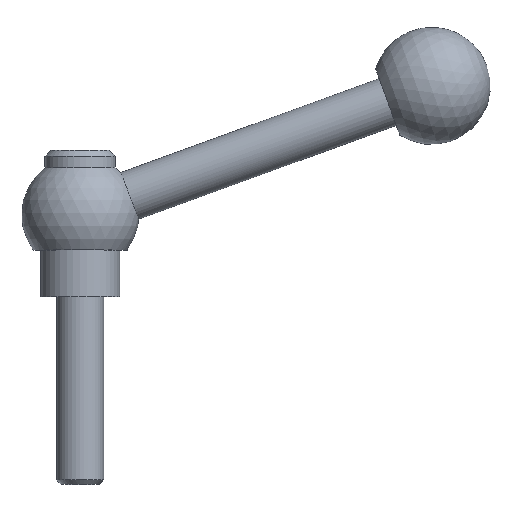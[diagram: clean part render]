
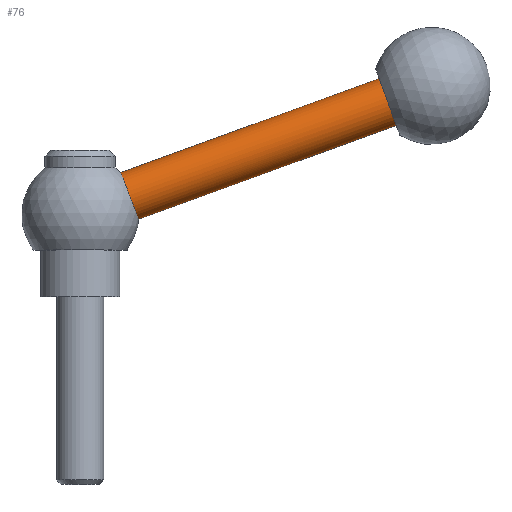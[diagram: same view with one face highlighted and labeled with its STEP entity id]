
A CAD part, top view. The second image highlights one B-rep face of the part: STEP entity #76.
In plain terms, the highlighted cylindrical face has radius 4.25 mm (diameter 8.5 mm), a full revolution.
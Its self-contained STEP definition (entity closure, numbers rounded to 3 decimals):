
#76 = ADVANCED_FACE( '', ( #92, #93 ), #94, .T. );
#92 = FACE_OUTER_BOUND( '', #130, .T. );
#93 = FACE_OUTER_BOUND( '', #131, .T. );
#94 = CYLINDRICAL_SURFACE( '', #132, 4.25 );
#130 = EDGE_LOOP( '', ( #170 ) );
#131 = EDGE_LOOP( '', ( #171 ) );
#132 = AXIS2_PLACEMENT_3D( '', #172, #173, #174 );
#170 = ORIENTED_EDGE( '', *, *, #230, .F. );
#171 = ORIENTED_EDGE( '', *, *, #231, .F. );
#172 = CARTESIAN_POINT( '', ( 69.397, 39.42, 0. ) );
#173 = DIRECTION( '', ( -0.94, -0.342, 0. ) );
#174 = DIRECTION( '', ( -0.342, 0.94, 0. ) );
#230 = EDGE_CURVE( '', #244, #244, #245, .T. );
#231 = EDGE_CURVE( '', #246, #246, #247, .T. );
#244 = VERTEX_POINT( '', #268 );
#245 = CIRCLE( '', #269, 4.25 );
#246 = VERTEX_POINT( '', #270 );
#247 = B_SPLINE_CURVE_WITH_KNOTS( '', 3, ( #271, #272, #273, #274, #275, #276, #277, #278, #279, #280, #281, #282, #283, #284, #285, #286, #287, #288, #289, #290, #291, #292, #293, #294, #295, #296, #297, #298, #299, #300, #301, #302, #303, #304, #305, #306, #307, #308, #309, #310, #311, #312, #313, #314, #315, #316, #317, #318, #319, #320, #321, #322, #323, #324, #325, #326, #327, #328, #329, #330, #331, #332, #333, #334, #335, #336 ), .UNSPECIFIED., .T., .F., ( 2, 2, 2, 2, 2, 2, 2, 2, 2, 2, 2, 2, 2, 2, 2, 2, 2, 2, 2, 2, 2, 2, 2, 2, 2, 2, 2, 2, 2, 2, 2, 2, 2, 2, 2 ), ( -0.001, 0., 0.001, 0.002, 0.002, 0.003, 0.004, 0.005, 0.006, 0.007, 0.007, 0.008, 0.009, 0.01, 0.011, 0.012, 0.012, 0.013, 0.014, 0.015, 0.016, 0.017, 0.017, 0.018, 0.019, 0.02, 0.021, 0.022, 0.022, 0.023, 0.024, 0.025, 0.026, 0.027, 0.027 ), .UNSPECIFIED. );
#268 = CARTESIAN_POINT( '', ( 51.029, 37.258, 0. ) );
#269 = AXIS2_PLACEMENT_3D( '', #358, #359, #360 );
#270 = CARTESIAN_POINT( '', ( 9.64, 14.14, -2.657 ) );
#271 = CARTESIAN_POINT( '', ( 9.577, 14.304, -2.876 ) );
#272 = CARTESIAN_POINT( '', ( 9.702, 13.976, -2.438 ) );
#273 = CARTESIAN_POINT( '', ( 9.756, 13.835, -2.205 ) );
#274 = CARTESIAN_POINT( '', ( 9.848, 13.597, -1.713 ) );
#275 = CARTESIAN_POINT( '', ( 9.885, 13.499, -1.452 ) );
#276 = CARTESIAN_POINT( '', ( 9.941, 13.354, -0.916 ) );
#277 = CARTESIAN_POINT( '', ( 9.959, 13.306, -0.644 ) );
#278 = CARTESIAN_POINT( '', ( 9.976, 13.261, -0.091 ) );
#279 = CARTESIAN_POINT( '', ( 9.975, 13.265, 0.192 ) );
#280 = CARTESIAN_POINT( '', ( 9.953, 13.322, 0.743 ) );
#281 = CARTESIAN_POINT( '', ( 9.933, 13.375, 1.014 ) );
#282 = CARTESIAN_POINT( '', ( 9.872, 13.532, 1.547 ) );
#283 = CARTESIAN_POINT( '', ( 9.833, 13.635, 1.805 ) );
#284 = CARTESIAN_POINT( '', ( 9.737, 13.885, 2.29 ) );
#285 = CARTESIAN_POINT( '', ( 9.681, 14.032, 2.521 ) );
#286 = CARTESIAN_POINT( '', ( 9.552, 14.368, 2.949 ) );
#287 = CARTESIAN_POINT( '', ( 9.481, 14.554, 3.143 ) );
#288 = CARTESIAN_POINT( '', ( 9.326, 14.958, 3.489 ) );
#289 = CARTESIAN_POINT( '', ( 9.242, 15.179, 3.644 ) );
#290 = CARTESIAN_POINT( '', ( 9.065, 15.64, 3.9 ) );
#291 = CARTESIAN_POINT( '', ( 8.973, 15.88, 4.003 ) );
#292 = CARTESIAN_POINT( '', ( 8.782, 16.379, 4.158 ) );
#293 = CARTESIAN_POINT( '', ( 8.683, 16.638, 4.21 ) );
#294 = CARTESIAN_POINT( '', ( 8.485, 17.153, 4.258 ) );
#295 = CARTESIAN_POINT( '', ( 8.386, 17.412, 4.255 ) );
#296 = CARTESIAN_POINT( '', ( 8.187, 17.933, 4.194 ) );
#297 = CARTESIAN_POINT( '', ( 8.089, 18.187, 4.136 ) );
#298 = CARTESIAN_POINT( '', ( 7.9, 18.68, 3.969 ) );
#299 = CARTESIAN_POINT( '', ( 7.808, 18.922, 3.859 ) );
#300 = CARTESIAN_POINT( '', ( 7.633, 19.378, 3.59 ) );
#301 = CARTESIAN_POINT( '', ( 7.551, 19.592, 3.434 ) );
#302 = CARTESIAN_POINT( '', ( 7.399, 19.989, 3.077 ) );
#303 = CARTESIAN_POINT( '', ( 7.328, 20.174, 2.874 ) );
#304 = CARTESIAN_POINT( '', ( 7.204, 20.498, 2.441 ) );
#305 = CARTESIAN_POINT( '', ( 7.15, 20.639, 2.21 ) );
#306 = CARTESIAN_POINT( '', ( 7.058, 20.88, 1.714 ) );
#307 = CARTESIAN_POINT( '', ( 7.02, 20.977, 1.453 ) );
#308 = CARTESIAN_POINT( '', ( 6.965, 21.122, 0.922 ) );
#309 = CARTESIAN_POINT( '', ( 6.946, 21.17, 0.647 ) );
#310 = CARTESIAN_POINT( '', ( 6.929, 21.215, 0.089 ) );
#311 = CARTESIAN_POINT( '', ( 6.93, 21.212, -0.188 ) );
#312 = CARTESIAN_POINT( '', ( 6.952, 21.156, -0.739 ) );
#313 = CARTESIAN_POINT( '', ( 6.973, 21.101, -1.015 ) );
#314 = CARTESIAN_POINT( '', ( 7.033, 20.945, -1.546 ) );
#315 = CARTESIAN_POINT( '', ( 7.071, 20.843, -1.8 ) );
#316 = CARTESIAN_POINT( '', ( 7.167, 20.593, -2.288 ) );
#317 = CARTESIAN_POINT( '', ( 7.224, 20.444, -2.521 ) );
#318 = CARTESIAN_POINT( '', ( 7.352, 20.112, -2.945 ) );
#319 = CARTESIAN_POINT( '', ( 7.423, 19.927, -3.139 ) );
#320 = CARTESIAN_POINT( '', ( 7.579, 19.518, -3.49 ) );
#321 = CARTESIAN_POINT( '', ( 7.663, 19.3, -3.642 ) );
#322 = CARTESIAN_POINT( '', ( 7.839, 18.842, -3.898 ) );
#323 = CARTESIAN_POINT( '', ( 7.932, 18.598, -4.003 ) );
#324 = CARTESIAN_POINT( '', ( 8.124, 18.098, -4.159 ) );
#325 = CARTESIAN_POINT( '', ( 8.221, 17.843, -4.209 ) );
#326 = CARTESIAN_POINT( '', ( 8.419, 17.327, -4.258 ) );
#327 = CARTESIAN_POINT( '', ( 8.52, 17.063, -4.255 ) );
#328 = CARTESIAN_POINT( '', ( 8.717, 16.548, -4.194 ) );
#329 = CARTESIAN_POINT( '', ( 8.814, 16.294, -4.138 ) );
#330 = CARTESIAN_POINT( '', ( 9.005, 15.797, -3.97 ) );
#331 = CARTESIAN_POINT( '', ( 9.097, 15.556, -3.859 ) );
#332 = CARTESIAN_POINT( '', ( 9.271, 15.103, -3.593 ) );
#333 = CARTESIAN_POINT( '', ( 9.353, 14.888, -3.436 ) );
#334 = CARTESIAN_POINT( '', ( 9.507, 14.486, -3.076 ) );
#335 = CARTESIAN_POINT( '', ( 9.577, 14.304, -2.876 ) );
#336 = CARTESIAN_POINT( '', ( 9.702, 13.976, -2.438 ) );
#358 = CARTESIAN_POINT( '', ( 52.482, 33.264, 0. ) );
#359 = DIRECTION( '', ( 0.94, 0.342, 0. ) );
#360 = DIRECTION( '', ( -0.342, 0.94, 0. ) );
